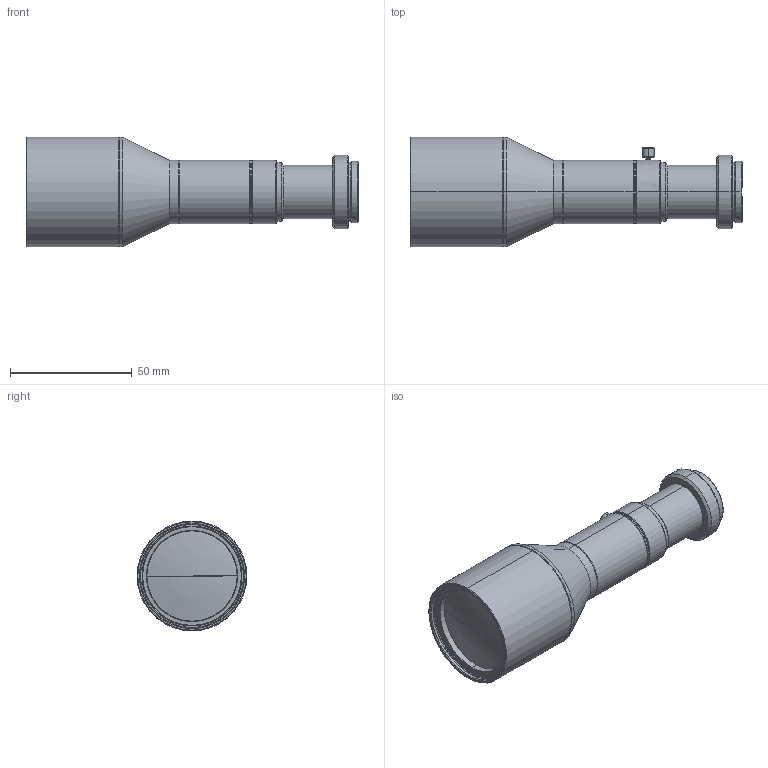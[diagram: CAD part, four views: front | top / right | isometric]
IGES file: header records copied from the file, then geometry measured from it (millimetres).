
Start section: SolidWorks IGES file using analytic representation for surfaces
Bounding box: 136.17 x 45 x 45 mm (x, y, z)
Surface area: 18117.1 mm2 (no closed solid volume)
Topology: 0 solids, 0 shells, 125 faces, 1542 edges, 1540 vertices
Faces by surface type: revolution 112, bspline 13
